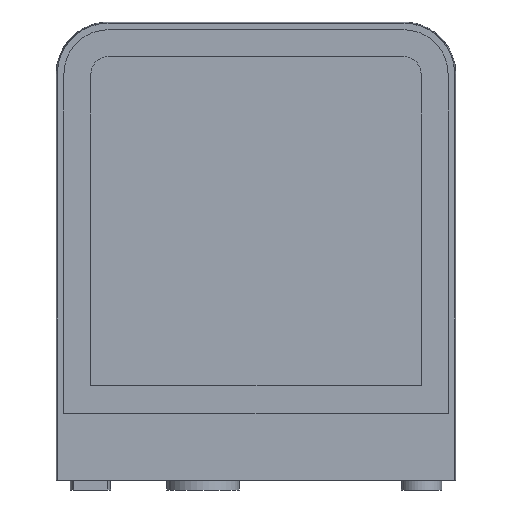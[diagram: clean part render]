
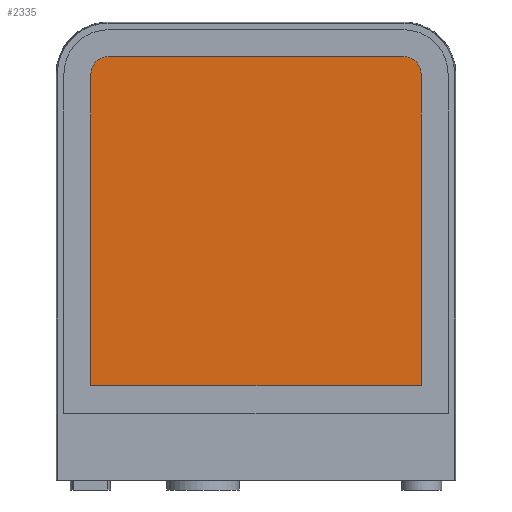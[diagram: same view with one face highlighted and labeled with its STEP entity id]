
A CAD part, front view. The second image highlights one B-rep face of the part: STEP entity #2335.
In plain terms, the highlighted planar face has unit normal (0, -1, 0).
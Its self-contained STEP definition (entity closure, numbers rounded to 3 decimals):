
#64=CIRCLE('',#2484,5.191);
#66=CIRCLE('',#2488,5.191);
#167=FACE_OUTER_BOUND('',#306,.T.);
#306=EDGE_LOOP('',(#1609,#1610,#1611,#1612,#1613,#1614));
#460=LINE('',#3408,#729);
#464=LINE('',#3416,#733);
#467=LINE('',#3422,#736);
#471=LINE('',#3434,#740);
#729=VECTOR('',#2720,304.8);
#733=VECTOR('',#2726,304.8);
#736=VECTOR('',#2731,304.8);
#740=VECTOR('',#2743,304.8);
#996=VERTEX_POINT('',#3406);
#997=VERTEX_POINT('',#3407);
#1000=VERTEX_POINT('',#3415);
#1002=VERTEX_POINT('',#3421);
#1004=VERTEX_POINT('',#3427);
#1006=VERTEX_POINT('',#3433);
#1224=EDGE_CURVE('',#996,#997,#460,.T.);
#1228=EDGE_CURVE('',#997,#1000,#464,.T.);
#1231=EDGE_CURVE('',#1000,#1002,#467,.T.);
#1234=EDGE_CURVE('',#1002,#1004,#64,.T.);
#1237=EDGE_CURVE('',#1004,#1006,#471,.T.);
#1240=EDGE_CURVE('',#1006,#996,#66,.T.);
#1609=ORIENTED_EDGE('',*,*,#1224,.T.);
#1610=ORIENTED_EDGE('',*,*,#1228,.T.);
#1611=ORIENTED_EDGE('',*,*,#1231,.T.);
#1612=ORIENTED_EDGE('',*,*,#1234,.T.);
#1613=ORIENTED_EDGE('',*,*,#1237,.T.);
#1614=ORIENTED_EDGE('',*,*,#1240,.T.);
#2228=PLANE('',#2491);
#2335=ADVANCED_FACE('',(#167),#2228,.T.);
#2484=AXIS2_PLACEMENT_3D('',#3428,#2736,#2737);
#2488=AXIS2_PLACEMENT_3D('',#3439,#2748,#2749);
#2491=AXIS2_PLACEMENT_3D('',#3442,#2754,#2755);
#2720=DIRECTION('',(0.,0.,-1.));
#2726=DIRECTION('',(1.,0.,0.));
#2731=DIRECTION('',(0.,0.,1.));
#2736=DIRECTION('center_axis',(0.,-1.,0.));
#2737=DIRECTION('ref_axis',(0.,0.,1.));
#2743=DIRECTION('',(-1.,0.,0.));
#2748=DIRECTION('center_axis',(0.,-1.,0.));
#2749=DIRECTION('ref_axis',(-1.,0.,0.));
#2754=DIRECTION('center_axis',(0.,-1.,0.));
#2755=DIRECTION('ref_axis',(0.,0.,-1.));
#3406=CARTESIAN_POINT('',(-49.865,-20.,122.674));
#3407=CARTESIAN_POINT('',(-49.865,-20.,28.5));
#3408=CARTESIAN_POINT('',(-49.865,-20.,122.674));
#3415=CARTESIAN_POINT('',(49.865,-20.,28.5));
#3416=CARTESIAN_POINT('',(-49.865,-20.,28.5));
#3421=CARTESIAN_POINT('',(49.865,-20.,122.674));
#3422=CARTESIAN_POINT('',(49.865,-20.,28.5));
#3427=CARTESIAN_POINT('',(44.674,-20.,127.865));
#3428=CARTESIAN_POINT('Origin',(44.674,-20.,122.674));
#3433=CARTESIAN_POINT('',(-44.674,-20.,127.865));
#3434=CARTESIAN_POINT('',(44.674,-20.,127.865));
#3439=CARTESIAN_POINT('Origin',(-44.674,-20.,122.674));
#3442=CARTESIAN_POINT('Origin',(-49.865,-20.,28.5));
